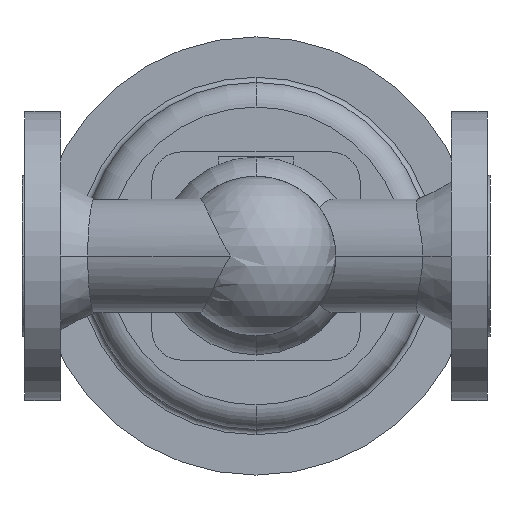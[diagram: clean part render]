
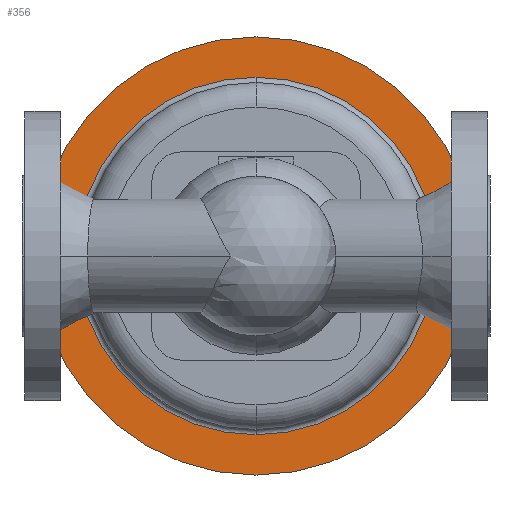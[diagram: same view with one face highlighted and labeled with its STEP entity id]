
A CAD part, front view. The second image highlights one B-rep face of the part: STEP entity #356.
In plain terms, the highlighted planar face has unit normal (0, -1, 0).
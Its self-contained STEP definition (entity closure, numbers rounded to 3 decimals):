
#356 = ADVANCED_FACE( '', ( #891, #892 ), #893, .T. );
#891 = FACE_OUTER_BOUND( '', #1435, .T. );
#892 = FACE_BOUND( '', #1436, .T. );
#893 = PLANE( '', #1437 );
#1435 = EDGE_LOOP( '', ( #3347, #3348 ) );
#1436 = EDGE_LOOP( '', ( #3349, #3350, #3351 ) );
#1437 = AXIS2_PLACEMENT_3D( '', #3352, #3353, #3354 );
#3347 = ORIENTED_EDGE( '', *, *, #3842, .F. );
#3348 = ORIENTED_EDGE( '', *, *, #4013, .F. );
#3349 = ORIENTED_EDGE( '', *, *, #4011, .T. );
#3350 = ORIENTED_EDGE( '', *, *, #3849, .T. );
#3351 = ORIENTED_EDGE( '', *, *, #4012, .T. );
#3352 = CARTESIAN_POINT( '', ( 247., 647.5, 0. ) );
#3353 = DIRECTION( '', ( 0., -1., 0. ) );
#3354 = DIRECTION( '', ( -1., 0., 0. ) );
#3842 = EDGE_CURVE( '', #4751, #4754, #4755, .T. );
#3849 = EDGE_CURVE( '', #4760, #4766, #4768, .T. );
#4011 = EDGE_CURVE( '', #5037, #4760, #5038, .T. );
#4012 = EDGE_CURVE( '', #4766, #5037, #5039, .T. );
#4013 = EDGE_CURVE( '', #4754, #4751, #5040, .T. );
#4751 = VERTEX_POINT( '', #6598 );
#4754 = VERTEX_POINT( '', #6602 );
#4755 = CIRCLE( '', #6603, 125. );
#4760 = VERTEX_POINT( '', #6609 );
#4766 = VERTEX_POINT( '', #6615 );
#4768 = CIRCLE( '', #6617, 102. );
#5037 = VERTEX_POINT( '', #6955 );
#5038 = CIRCLE( '', #6956, 102. );
#5039 = CIRCLE( '', #6957, 102. );
#5040 = CIRCLE( '', #6958, 125. );
#6598 = CARTESIAN_POINT( '', ( 258.5, 647.5, 0. ) );
#6602 = CARTESIAN_POINT( '', ( 8.5, 647.5, 0. ) );
#6603 = AXIS2_PLACEMENT_3D( '', #7808, #7809, #7810 );
#6609 = CARTESIAN_POINT( '', ( 133.5, 647.5, -102. ) );
#6615 = CARTESIAN_POINT( '', ( 133.5, 647.5, 102. ) );
#6617 = AXIS2_PLACEMENT_3D( '', #7827, #7828, #7829 );
#6955 = CARTESIAN_POINT( '', ( 235.5, 647.5, 0. ) );
#6956 = AXIS2_PLACEMENT_3D( '', #8175, #8176, #8177 );
#6957 = AXIS2_PLACEMENT_3D( '', #8178, #8179, #8180 );
#6958 = AXIS2_PLACEMENT_3D( '', #8181, #8182, #8183 );
#7808 = CARTESIAN_POINT( '', ( 133.5, 647.5, 0. ) );
#7809 = DIRECTION( '', ( 0., 1., 0. ) );
#7810 = DIRECTION( '', ( 1., 0., 0. ) );
#7827 = CARTESIAN_POINT( '', ( 133.5, 647.5, 0. ) );
#7828 = DIRECTION( '', ( 0., 1., 0. ) );
#7829 = DIRECTION( '', ( 1., 0., 0. ) );
#8175 = CARTESIAN_POINT( '', ( 133.5, 647.5, 0. ) );
#8176 = DIRECTION( '', ( 0., 1., 0. ) );
#8177 = DIRECTION( '', ( 1., 0., 0. ) );
#8178 = CARTESIAN_POINT( '', ( 133.5, 647.5, 0. ) );
#8179 = DIRECTION( '', ( 0., 1., 0. ) );
#8180 = DIRECTION( '', ( 1., 0., 0. ) );
#8181 = CARTESIAN_POINT( '', ( 133.5, 647.5, 0. ) );
#8182 = DIRECTION( '', ( 0., 1., 0. ) );
#8183 = DIRECTION( '', ( 1., 0., 0. ) );
